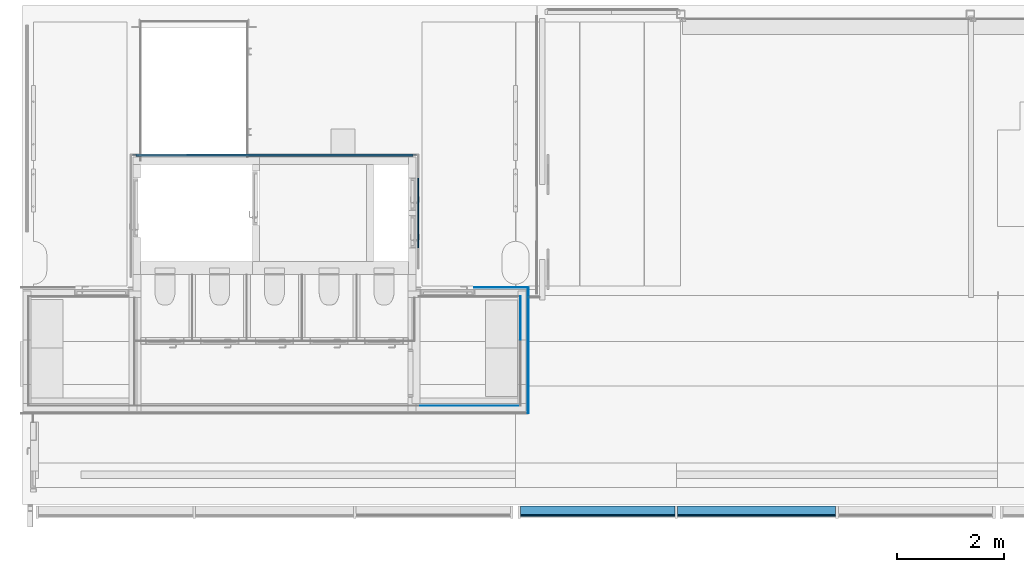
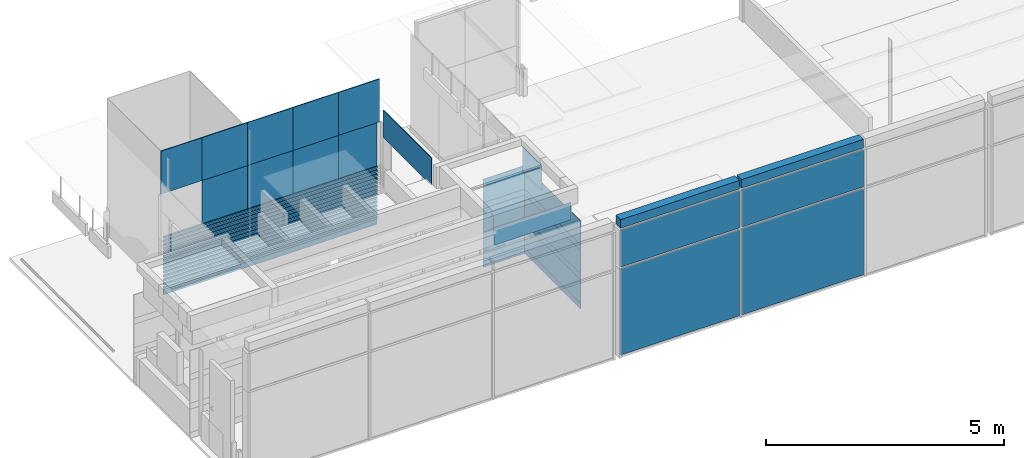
# One storey, part 8 of 26: 45 plates, 7 elements without a shape of their own.
"""IFC2X3 building model written with IfcOpenShell, lengths in millimetres."""

import ifcopenshell
import ifcopenshell.guid

model = None  # the IFC model being written
_history = None  # IfcOwnerHistory: only IFC2X3 demands one
_inside = {}  # id of a spatial element -> (the spatial element, [elements in it])
_under = {}  # id of a project, library or spatial element -> (it, [spatial elements below it])
_declared = {}  # id of a project -> (the project, [libraries it declares])
_typed = {}  # id of a type object -> (the type object, [elements of that type])
_made_of = {}  # id of a material, layer set ... -> (it, [elements and type objects made of it])


def new_model(schema):
    """Start an empty IFC model of exactly this schema.

    Asked for "IFC4X3", IfcOpenShell would pick the latest addendum, in which some entities
    have other attributes; the version numbers below select the first issue.
    IFC2X3 requires an IfcOwnerHistory on every rooted entity: one is made here for all.
    """
    global model, _history
    if schema == "IFC4X3":
        model = ifcopenshell.file(schema_version=(4, 3, 0, 0))
    else:
        model = ifcopenshell.file(schema=schema)
    _inside.clear()
    _under.clear()
    _declared.clear()
    _typed.clear()
    _made_of.clear()
    _history = None
    if model.schema == "IFC2X3":
        org = make("IfcOrganization", Name="unknown")
        user = make(
            "IfcPersonAndOrganization",
            ThePerson=make("IfcPerson", FamilyName="unknown"),
            TheOrganization=org,
        )
        app = make(
            "IfcApplication",
            ApplicationDeveloper=org,
            Version="unknown",
            ApplicationFullName="unknown",
            ApplicationIdentifier="unknown",
        )
        _history = make(
            "IfcOwnerHistory",
            OwningUser=user,
            OwningApplication=app,
            ChangeAction="ADDED",
            CreationDate=0,
        )
    return model


def make(cls, **values):
    """One entity of the class cls with the attributes given. An attribute that is None is left unset."""
    return model.create_entity(
        cls, **{name: value for name, value in values.items() if value is not None}
    )


def entity(cls, *values):
    """Any entity or typed value of the class cls, its attributes in the order of the schema. None: left unset."""
    e = model.create_entity(cls)
    for i, value in enumerate(values):
        if value is not None:
            e[i] = value
    return e


def rooted(cls, **values):
    """An entity with a GlobalId (a new one), such as an element, a storey or a relation."""
    return make(cls, GlobalId=ifcopenshell.guid.new(), OwnerHistory=_history, **values)


def si_unit(unit_type, name, prefix=None):
    """IfcSIUnit, for example si_unit("LENGTHUNIT", "METRE", prefix="MILLI")."""
    return make("IfcSIUnit", UnitType=unit_type, Prefix=prefix, Name=name)


def converted_unit(unit_type, name, factor, base, dimensions=None, offset=None):
    """IfcConversionBasedUnit, such as the inch: factor (a typed value) times the base unit."""
    return make(
        "IfcConversionBasedUnit"
        if offset is None
        else "IfcConversionBasedUnitWithOffset",
        ConversionOffset=offset,
        Dimensions=None
        if dimensions is None
        else entity("IfcDimensionalExponents", *dimensions),
        UnitType=unit_type,
        Name=name,
        ConversionFactor=make(
            "IfcMeasureWithUnit", ValueComponent=factor, UnitComponent=base
        ),
    )


def derived_unit(unit_type, elements):
    """IfcDerivedUnit: a product of units, each with its exponent."""
    return make(
        "IfcDerivedUnit",
        Elements=[
            make("IfcDerivedUnitElement", Unit=unit, Exponent=power)
            for unit, power in elements
        ],
        UnitType=unit_type,
    )


def assignment(units):
    """IfcUnitAssignment: the units of a project."""
    return None if units is None else make("IfcUnitAssignment", Units=units)


def point(xyz):
    """IfcCartesianPoint."""
    return None if xyz is None else make("IfcCartesianPoint", Coordinates=xyz)


def direction(xyz):
    """IfcDirection."""
    return None if xyz is None else make("IfcDirection", DirectionRatios=xyz)


def frame(location, z_axis=None, x_axis=None):
    """IfcAxis2Placement3D, a coordinate frame: its origin and axes. An axis left out is left unset."""
    return make(
        "IfcAxis2Placement3D",
        Location=point(location),
        Axis=direction(z_axis),
        RefDirection=direction(x_axis),
    )


def frame_2d(location, x_axis=None):
    """IfcAxis2Placement2D, a coordinate frame in the plane: its origin and x axis."""
    return make(
        "IfcAxis2Placement2D", Location=point(location), RefDirection=direction(x_axis)
    )


def origin():
    """The frame at (0, 0, 0) with its axes left unset."""
    return frame((0.0, 0.0, 0.0))


def origin_with_axes():
    """The frame at (0, 0, 0) with the z axis (0, 0, 1) and the x axis (1, 0, 0) written out."""
    return frame((0.0, 0.0, 0.0), z_axis=(0.0, 0.0, 1.0), x_axis=(1.0, 0.0, 0.0))


def origin_2d_with_axis():
    """The frame at (0, 0) in the plane with the x axis (1, 0) written out."""
    return frame_2d((0.0, 0.0), x_axis=(1.0, 0.0))


def place(relative_to, where):
    """IfcLocalPlacement: puts the frame where relative to a parent placement (None: the world)."""
    return make(
        "IfcLocalPlacement", PlacementRelTo=relative_to, RelativePlacement=where
    )


def context(
    kind, dimensions, precision=None, world=None, true_north=None, identifier=None
):
    """IfcGeometricRepresentationContext, for example the 3D "Model" context."""
    return make(
        "IfcGeometricRepresentationContext",
        ContextIdentifier=identifier,
        ContextType=kind,
        CoordinateSpaceDimension=dimensions,
        Precision=precision,
        WorldCoordinateSystem=world,
        TrueNorth=true_north,
    )


def subcontext(parent, identifier, kind, view, scale=None):
    """IfcGeometricRepresentationSubContext, for example "Body" below "Model"."""
    return make(
        "IfcGeometricRepresentationSubContext",
        ContextIdentifier=identifier,
        ContextType=kind,
        ParentContext=parent,
        TargetScale=scale,
        TargetView=view,
    )


def project(units=None, contexts=None):
    """IfcProject with its units and contexts."""
    return rooted(
        "IfcProject",
        Name="project",
        RepresentationContexts=contexts,
        UnitsInContext=assignment(units),
    )


def spatial(cls, under=None, at=None, **own):
    """A site, building, storey or space (cls), placed at a placement, below another one or the project."""
    s = rooted(cls, ObjectPlacement=at, **own)
    if under is not None:
        _under.setdefault(under.id(), (under, []))[1].append(s)
    return s


def profile(cls, at=None, kind="AREA", **sizes):
    """A parametric profile (cls). Its sizes go by their IFC names, for example OverallWidth=200.0."""
    return make(cls, ProfileType=kind, Position=at, **sizes)


def rectangle(**sizes):
    """IfcRectangleProfileDef."""
    return profile("IfcRectangleProfileDef", **sizes)


def extrude(swept, where, along, depth):
    """IfcExtrudedAreaSolid: the profile swept, set in the frame where, extruded along a direction by depth."""
    return make(
        "IfcExtrudedAreaSolid",
        SweptArea=swept,
        Position=where,
        ExtrudedDirection=direction(along),
        Depth=depth,
    )


def shape(context_of_items, identifier, shape_type, items):
    """IfcShapeRepresentation: the items that make up one representation, for example the "Body"."""
    return make(
        "IfcShapeRepresentation",
        ContextOfItems=context_of_items,
        RepresentationIdentifier=identifier,
        RepresentationType=shape_type,
        Items=items,
    )


def source(mapping_origin, context_of_items, identifier, shape_type, items):
    """IfcRepresentationMap: a shape defined once, which mapped items show again and again."""
    return make(
        "IfcRepresentationMap",
        MappingOrigin=mapping_origin,
        MappedRepresentation=shape(context_of_items, identifier, shape_type, items),
    )


def transform(
    local_origin,
    x_axis=None,
    y_axis=None,
    z_axis=None,
    scale=None,
    scale2=None,
    scale3=None,
    uniform=True,
):
    """IfcCartesianTransformationOperator3D, or its non-uniform kind. x_axis, y_axis, z_axis: its Axis1, 2, 3."""
    if uniform:
        return make(
            "IfcCartesianTransformationOperator3D",
            Axis1=direction(x_axis),
            Axis2=direction(y_axis),
            LocalOrigin=point(local_origin),
            Scale=scale,
            Axis3=direction(z_axis),
        )
    return make(
        "IfcCartesianTransformationOperator3DnonUniform",
        Axis1=direction(x_axis),
        Axis2=direction(y_axis),
        LocalOrigin=point(local_origin),
        Scale=scale,
        Axis3=direction(z_axis),
        Scale2=scale2,
        Scale3=scale3,
    )


def mapped(mapping_source, mapping_target):
    """IfcMappedItem: shows the shape of a source again, moved by a transform."""
    return make(
        "IfcMappedItem", MappingSource=mapping_source, MappingTarget=mapping_target
    )


def material(Name=None, Category=None):
    """IfcMaterial."""
    return make("IfcMaterial", Name=Name, Category=Category)


def layer(
    of_material, thickness, ventilated=None, Name=None, Category=None, Priority=None
):
    """IfcMaterialLayer: one layer of a wall or slab, of a material (None: an air gap)."""
    return make(
        "IfcMaterialLayer",
        Material=of_material,
        LayerThickness=thickness,
        IsVentilated=ventilated,
        Name=Name,
        Category=Category,
        Priority=Priority,
    )


def layer_set(layers, Name=None):
    """IfcMaterialLayerSet."""
    return make("IfcMaterialLayerSet", MaterialLayers=layers, LayerSetName=Name)


def made_of(thing, what):
    """Note that an element or type object is made of a material, layer set ...; save() writes the relation."""
    if what is not None:
        _made_of.setdefault(what.id(), (what, []))[1].append(thing)
    return thing


def type_object(cls, material=None, **own):
    """A type object (cls), such as IfcWallType, which elements share."""
    return made_of(rooted(cls, **own), material)


def element(
    cls,
    number,
    at=None,
    inside=None,
    cuts=None,
    type_object=None,
    material=None,
    context=None,
    identifier="Body",
    shape_type=None,
    held_by="IfcProductDefinitionShape",
    body=None,
    shapes=None,
    **own,
):
    """One element of the class cls, such as IfcWall. Its Tag is "e" and its number.

    at: its placement. inside: the storey or other place that contains it. cuts: it is an
    opening in that element (IfcRelVoidsElement). A single representation is given by context,
    identifier, shape_type and body (its items); several are given by shapes. held_by: the class
    of the entity that holds the representations. save() writes the other relations.
    """
    e = rooted(cls, Tag="e%d" % number, ObjectPlacement=at, **own)
    if body is not None:
        shapes = [shape(context, identifier, shape_type, body)]
    if shapes is not None:
        e.Representation = make(held_by, Representations=shapes)
    if inside is not None:
        _inside.setdefault(inside.id(), (inside, []))[1].append(e)
    if cuts is not None:
        rooted(
            "IfcRelVoidsElement", RelatingBuildingElement=cuts, RelatedOpeningElement=e
        )
    if type_object is not None:
        _typed.setdefault(type_object.id(), (type_object, []))[1].append(e)
    return made_of(e, material)


def aggregate(whole, parts):
    """IfcRelAggregates: a whole, such as a stair, and the parts it consists of."""
    return rooted("IfcRelAggregates", RelatingObject=whole, RelatedObjects=parts)


def save(model, path):
    """Write the relations noted so far, then the file.

    IfcRelAggregates (storeys below a building ...), IfcRelContainedInSpatialStructure (elements
    in a storey), IfcRelDefinesByType, IfcRelAssociatesMaterial and IfcRelDeclares: one each for
    every whole, place, type object, material and project.
    """
    for whole, parts in _under.values():
        aggregate(whole, parts)
    for where, things in _inside.values():
        rooted(
            "IfcRelContainedInSpatialStructure",
            RelatedElements=things,
            RelatingStructure=where,
        )
    for kind, things in _typed.values():
        rooted("IfcRelDefinesByType", RelatedObjects=things, RelatingType=kind)
    for what, things in _made_of.values():
        rooted("IfcRelAssociatesMaterial", RelatedObjects=things, RelatingMaterial=what)
    for by, libraries in _declared.values():
        rooted("IfcRelDeclares", RelatingContext=by, RelatedDefinitions=libraries)
    model.write(path)


model = new_model("IFC2X3")

# Units and contexts
model_context = context("Model", 3, precision=0.01, world=frame((0.0, 4.29681676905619e-09, 0.0)), true_north=direction((4.01073788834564e-13, 1.0)))
plan_context = context("Plan", 3, precision=0.01, world=frame((0.0, 4.29681676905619e-09, 0.0)), true_north=direction((4.01073788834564e-13, 1.0)))
body_context = subcontext(model_context, "Body", "Model", "MODEL_VIEW")
ifc_project = project(units=[converted_unit("PLANEANGLEUNIT", "DEGREE", entity("IfcPositiveLengthMeasure", 0.0174532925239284), si_unit("PLANEANGLEUNIT", "RADIAN"), dimensions=[0, 0, 0, 0, 0, 0, 0]), si_unit("AREAUNIT", "SQUARE_METRE"), si_unit("LENGTHUNIT", "METRE", prefix="MILLI"), si_unit("MASSUNIT", "GRAM", prefix="KILO"), si_unit("POWERUNIT", "WATT"), si_unit("PRESSUREUNIT", "PASCAL", prefix="KILO"), si_unit("FORCEUNIT", "NEWTON", prefix="KILO"), si_unit("ELECTRICVOLTAGEUNIT", "VOLT"), si_unit("ELECTRICCURRENTUNIT", "AMPERE"), si_unit("THERMODYNAMICTEMPERATUREUNIT", "DEGREE_CELSIUS"), si_unit("TIMEUNIT", "SECOND"), si_unit("VOLUMEUNIT", "CUBIC_METRE"), derived_unit("LINEARVELOCITYUNIT", [(si_unit("LENGTHUNIT", "METRE"), 1), (si_unit("TIMEUNIT", "SECOND"), -1)]), derived_unit("VOLUMETRICFLOWRATEUNIT", [(si_unit("VOLUMEUNIT", "CUBIC_METRE"), 1), (si_unit("TIMEUNIT", "SECOND"), -1)]), derived_unit("THERMALTRANSMITTANCEUNIT", [(si_unit("POWERUNIT", "WATT"), 1), (si_unit("THERMODYNAMICTEMPERATUREUNIT", "KELVIN"), -1), (si_unit("AREAUNIT", "SQUARE_METRE"), -1)]), derived_unit("SOUNDPRESSUREUNIT", [(si_unit("PRESSUREUNIT", "PASCAL"), 1)])], contexts=[model_context, plan_context])

# Site, building, storey
site_placement = place(None, origin_with_axes())
site = spatial("IfcSite", under=ifc_project, at=site_placement, Name="ENGM", CompositionType="ELEMENT")
building_placement = place(site_placement, origin_with_axes())
building = spatial("IfcBuilding", under=site, at=building_placement, Name="TG", CompositionType="ELEMENT")
storey_placement = place(building_placement, frame((0.0, 0.0, 210200.0), z_axis=(0.0, 0.0, 1.0), x_axis=(1.0, 0.0, 0.0)))
storey = spatial("IfcBuildingStorey", under=building, at=storey_placement, Name="Nivå F - 0,7 m", CompositionType="ELEMENT", Elevation=210200.0)

# Curtain wall, plates
curtain_wall_type_1 = type_object("IfcCurtainWallType", Name="Curtain Wall:A232 - UGV - Glass 30 mm", PredefinedType="NOTDEFINED")
curtain_wall_1_placement = place(storey_placement, frame((0.0, 0.0, -210200.0), z_axis=(0.0, 0.0, 1.0), x_axis=(1.0, 0.0, 0.0)))
curtain_wall_1 = element("IfcCurtainWall", 1, at=curtain_wall_1_placement, inside=storey, type_object=curtain_wall_type_1, Name="Curtain Wall:A232 - UGV - Glass 30 mm", ObjectType="Curtain Wall:A232 - UGV - Glass 30 mm")
ifc_material_1 = material(Name="Glass (Avinor)")
plate_type_1 = type_object("IfcPlateType", Name="System Panel:A234 - Glass - 30 mm", PredefinedType="CURTAIN_PANEL", material=ifc_material_1)
shared_shape_1 = source(origin(), body_context, "Body", "SweptSolid", [
    extrude(rectangle(XDim=30.0, YDim=2880.0, at=origin_2d_with_axis()), frame((0.0, 15.0, 0.0), z_axis=(0.0, 0.0, 1.0), x_axis=(0.0, 1.0, 0.0)), (0.0, 0.0, 1.0), 2200.0),
])
plate_1_placement = place(curtain_wall_1_placement, frame((332534.725000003, 458000.000000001, 210230.0), z_axis=(0.0, 0.0, 1.0), x_axis=(-1.0, 0.0, 0.0)))
plate_1 = element("IfcPlate", 2, at=plate_1_placement, type_object=plate_type_1, material=ifc_material_1, Name="System Panel:A234 - Glass - 30 mm", ObjectType="System Panel:A234 - Glass - 30 mm", context=body_context, shape_type="MappedRepresentation", body=[
    mapped(shared_shape_1, transform((0.0, 0.0, 0.0), scale=1.0)),
])
plate_type_2 = type_object("IfcPlateType", Name="System Panel:A234 - Glass - 30 mm", PredefinedType="CURTAIN_PANEL", material=ifc_material_1)
shared_shape_2 = source(origin(), body_context, "Body", "SweptSolid", [
    extrude(rectangle(XDim=30.0, YDim=2949.99999999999, at=origin_2d_with_axis()), frame((0.0, 15.0, 0.0), z_axis=(0.0, 0.0, 1.0), x_axis=(0.0, 1.0, 0.0)), (0.0, 0.0, 1.0), 2200.0),
])
plate_2_placement = place(curtain_wall_1_placement, frame((335499.725000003, 457999.999999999, 210230.0), z_axis=(0.0, 0.0, 1.0), x_axis=(-1.0, 0.0, 0.0)))
plate_2 = element("IfcPlate", 3, at=plate_2_placement, type_object=plate_type_2, material=ifc_material_1, Name="System Panel:A234 - Glass - 30 mm", ObjectType="System Panel:A234 - Glass - 30 mm", context=body_context, shape_type="MappedRepresentation", body=[
    mapped(shared_shape_2, transform((0.0, 0.0, 0.0), scale=1.0)),
])
plate_type_3 = type_object("IfcPlateType", Name="System Panel:A234 - Glass - 30 mm", PredefinedType="CURTAIN_PANEL", material=ifc_material_1)
shared_shape_3 = source(origin(), body_context, "Body", "SweptSolid", [
    extrude(rectangle(XDim=30.0, YDim=2949.99999999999, at=origin_2d_with_axis()), frame((0.0, 15.0, 0.0), z_axis=(0.0, 0.0, 1.0), x_axis=(0.0, 1.0, 0.0)), (0.0, 0.0, 1.0), 950.000000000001),
])
plate_3_placement = place(curtain_wall_1_placement, frame((335499.725000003, 457999.999999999, 212480.0), z_axis=(0.0, 0.0, 1.0), x_axis=(-1.0, 0.0, 0.0)))
plate_3 = element("IfcPlate", 4, at=plate_3_placement, type_object=plate_type_3, material=ifc_material_1, Name="System Panel:A234 - Glass - 30 mm", ObjectType="System Panel:A234 - Glass - 30 mm", context=body_context, shape_type="MappedRepresentation", body=[
    mapped(shared_shape_3, transform((0.0, 0.0, 0.0), scale=1.0)),
])
plate_type_4 = type_object("IfcPlateType", Name="System Panel:A234 - Glass - 30 mm", PredefinedType="CURTAIN_PANEL", material=ifc_material_1)
shared_shape_4 = source(origin(), body_context, "Body", "SweptSolid", [
    extrude(rectangle(XDim=30.0, YDim=2880.0, at=origin_2d_with_axis()), frame((0.0, 15.0, 0.0), z_axis=(0.0, 0.0, 1.0), x_axis=(0.0, 1.0, 0.0)), (0.0, 0.0, 1.0), 950.000000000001),
])
plate_4_placement = place(curtain_wall_1_placement, frame((332534.725000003, 458000.000000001, 212480.0), z_axis=(0.0, 0.0, 1.0), x_axis=(-1.0, 0.0, 0.0)))
plate_4 = element("IfcPlate", 5, at=plate_4_placement, type_object=plate_type_4, material=ifc_material_1, Name="System Panel:A234 - Glass - 30 mm", ObjectType="System Panel:A234 - Glass - 30 mm", context=body_context, shape_type="MappedRepresentation", body=[
    mapped(shared_shape_4, transform((0.0, 0.0, 0.0), scale=1.0)),
])

curtain_wall_type_2 = type_object("IfcCurtainWallType", Name="Curtain Wall:A245 - BIM av T1 - IMK 20mm - Offset 30mm", PredefinedType="NOTDEFINED")
curtain_wall_2_placement = place(storey_placement, frame((0.0, 0.0, -210200.0), z_axis=(0.0, 0.0, 1.0), x_axis=(1.0, 0.0, 0.0)))
curtain_wall_2 = element("IfcCurtainWall", 6, at=curtain_wall_2_placement, inside=storey, type_object=curtain_wall_type_2, Name="Curtain Wall:A245 - BIM av T1 - IMK 20mm - Offset 30mm", ObjectType="Curtain Wall:A245 - BIM av T1 - IMK 20mm - Offset 30mm")
ifc_material_2 = material(Name="Metal - Steel")
plate_type_5 = type_object("IfcPlateType", Name="System Panel:A245 - Metallkasett Inv.20mm - Offset 30mm", PredefinedType="CURTAIN_PANEL", material=ifc_material_2)
shared_shape_5 = source(origin(), body_context, "Body", "SweptSolid", [
    extrude(rectangle(XDim=150.000000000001, YDim=5170.00000002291, at=frame_2d((0.0, -2.15534328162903e-08), x_axis=(1.0, 0.0))), frame((2.15576962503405e-08, 30.0, 75.0), z_axis=(0.0, 1.0, 0.0), x_axis=(0.0, 0.0, 1.0)), (0.0, 0.0, 1.0), 20.0),
])
plate_5_placement = place(curtain_wall_2_placement, frame((326500.000000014, 464677.272716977, 210200.0), z_axis=(0.0, 0.0, 1.0), x_axis=(1.0, 0.0, 0.0)))
plate_5 = element("IfcPlate", 7, at=plate_5_placement, type_object=plate_type_5, material=ifc_material_2, Name="System Panel:A245 - Metallkasett Inv.20mm - Offset 30mm", ObjectType="System Panel:A245 - Metallkasett Inv.20mm - Offset 30mm", context=body_context, shape_type="MappedRepresentation", body=[
    mapped(shared_shape_5, transform((0.0, 0.0, 0.0), scale=1.0)),
])
ifc_material_3 = material(Name="T2_Tre Finerplate")
plate_type_6 = type_object("IfcPlateType", Name="System Panel:A245 - Trepanel eksisterende 2", PredefinedType="CURTAIN_PANEL", material=ifc_material_3)
shared_shape_6 = source(origin(), body_context, "Body", "SweptSolid", [
    extrude(rectangle(XDim=55.0000000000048, YDim=5170.00000000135, at=frame_2d((0.0, -1.43918441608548e-08), x_axis=(1.0, 0.0))), frame((1.4361683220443e-08, 10.0, 27.5000000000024), z_axis=(0.0, 1.0, 0.0), x_axis=(0.0, 0.0, 1.0)), (0.0, 0.0, 1.0), 40.0),
])
plate_6_placement = place(curtain_wall_2_placement, frame((326500.000000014, 464677.272716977, 210350.0), z_axis=(0.0, 0.0, 1.0), x_axis=(1.0, 0.0, 0.0)))
plate_6 = element("IfcPlate", 8, at=plate_6_placement, type_object=plate_type_6, material=ifc_material_3, Name="System Panel:A245 - Trepanel eksisterende 2", ObjectType="System Panel:A245 - Trepanel eksisterende 2", context=body_context, shape_type="MappedRepresentation", body=[
    mapped(shared_shape_6, transform((0.0, 0.0, 0.0), scale=1.0)),
])
plate_7_placement = place(curtain_wall_2_placement, frame((326500.000000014, 464677.272716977, 210450.0), z_axis=(0.0, 0.0, 1.0), x_axis=(1.0, 0.0, 0.0)))
plate_7 = element("IfcPlate", 9, at=plate_7_placement, type_object=plate_type_6, material=ifc_material_3, Name="System Panel:A245 - Trepanel eksisterende 2", ObjectType="System Panel:A245 - Trepanel eksisterende 2", context=body_context, shape_type="MappedRepresentation", body=[
    mapped(shared_shape_6, transform((0.0, 0.0, 0.0), scale=1.0)),
])
plate_8_placement = place(curtain_wall_2_placement, frame((326500.000000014, 464677.272716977, 210550.0), z_axis=(0.0, 0.0, 1.0), x_axis=(1.0, 0.0, 0.0)))
plate_8 = element("IfcPlate", 10, at=plate_8_placement, type_object=plate_type_6, material=ifc_material_3, Name="System Panel:A245 - Trepanel eksisterende 2", ObjectType="System Panel:A245 - Trepanel eksisterende 2", context=body_context, shape_type="MappedRepresentation", body=[
    mapped(shared_shape_6, transform((0.0, 0.0, 0.0), scale=1.0)),
])
plate_9_placement = place(curtain_wall_2_placement, frame((326500.000000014, 464677.272716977, 210650.0), z_axis=(0.0, 0.0, 1.0), x_axis=(1.0, 0.0, 0.0)))
plate_9 = element("IfcPlate", 11, at=plate_9_placement, type_object=plate_type_6, material=ifc_material_3, Name="System Panel:A245 - Trepanel eksisterende 2", ObjectType="System Panel:A245 - Trepanel eksisterende 2", context=body_context, shape_type="MappedRepresentation", body=[
    mapped(shared_shape_6, transform((0.0, 0.0, 0.0), scale=1.0)),
])
plate_10_placement = place(curtain_wall_2_placement, frame((326500.000000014, 464677.272716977, 210750.0), z_axis=(0.0, 0.0, 1.0), x_axis=(1.0, 0.0, 0.0)))
plate_10 = element("IfcPlate", 12, at=plate_10_placement, type_object=plate_type_6, material=ifc_material_3, Name="System Panel:A245 - Trepanel eksisterende 2", ObjectType="System Panel:A245 - Trepanel eksisterende 2", context=body_context, shape_type="MappedRepresentation", body=[
    mapped(shared_shape_6, transform((0.0, 0.0, 0.0), scale=1.0)),
])
plate_11_placement = place(curtain_wall_2_placement, frame((326500.000000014, 464677.272716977, 210850.0), z_axis=(0.0, 0.0, 1.0), x_axis=(1.0, 0.0, 0.0)))
plate_11 = element("IfcPlate", 13, at=plate_11_placement, type_object=plate_type_6, material=ifc_material_3, Name="System Panel:A245 - Trepanel eksisterende 2", ObjectType="System Panel:A245 - Trepanel eksisterende 2", context=body_context, shape_type="MappedRepresentation", body=[
    mapped(shared_shape_6, transform((0.0, 0.0, 0.0), scale=1.0)),
])
plate_12_placement = place(curtain_wall_2_placement, frame((326500.000000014, 464677.272716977, 210950.0), z_axis=(0.0, 0.0, 1.0), x_axis=(1.0, 0.0, 0.0)))
plate_12 = element("IfcPlate", 14, at=plate_12_placement, type_object=plate_type_6, material=ifc_material_3, Name="System Panel:A245 - Trepanel eksisterende 2", ObjectType="System Panel:A245 - Trepanel eksisterende 2", context=body_context, shape_type="MappedRepresentation", body=[
    mapped(shared_shape_6, transform((0.0, 0.0, 0.0), scale=1.0)),
])
plate_13_placement = place(curtain_wall_2_placement, frame((326500.000000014, 464677.272716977, 211050.0), z_axis=(0.0, 0.0, 1.0), x_axis=(1.0, 0.0, 0.0)))
plate_13 = element("IfcPlate", 15, at=plate_13_placement, type_object=plate_type_6, material=ifc_material_3, Name="System Panel:A245 - Trepanel eksisterende 2", ObjectType="System Panel:A245 - Trepanel eksisterende 2", context=body_context, shape_type="MappedRepresentation", body=[
    mapped(shared_shape_6, transform((0.0, 0.0, 0.0), scale=1.0)),
])
plate_14_placement = place(curtain_wall_2_placement, frame((326500.000000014, 464677.272716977, 211150.0), z_axis=(0.0, 0.0, 1.0), x_axis=(1.0, 0.0, 0.0)))
plate_14 = element("IfcPlate", 16, at=plate_14_placement, type_object=plate_type_6, material=ifc_material_3, Name="System Panel:A245 - Trepanel eksisterende 2", ObjectType="System Panel:A245 - Trepanel eksisterende 2", context=body_context, shape_type="MappedRepresentation", body=[
    mapped(shared_shape_6, transform((0.0, 0.0, 0.0), scale=1.0)),
])
plate_15_placement = place(curtain_wall_2_placement, frame((326500.000000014, 464677.272716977, 211250.0), z_axis=(0.0, 0.0, 1.0), x_axis=(1.0, 0.0, 0.0)))
plate_15 = element("IfcPlate", 17, at=plate_15_placement, type_object=plate_type_6, material=ifc_material_3, Name="System Panel:A245 - Trepanel eksisterende 2", ObjectType="System Panel:A245 - Trepanel eksisterende 2", context=body_context, shape_type="MappedRepresentation", body=[
    mapped(shared_shape_6, transform((0.0, 0.0, 0.0), scale=1.0)),
])
plate_16_placement = place(curtain_wall_2_placement, frame((326500.000000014, 464677.272716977, 211350.0), z_axis=(0.0, 0.0, 1.0), x_axis=(1.0, 0.0, 0.0)))
plate_16 = element("IfcPlate", 18, at=plate_16_placement, type_object=plate_type_6, material=ifc_material_3, Name="System Panel:A245 - Trepanel eksisterende 2", ObjectType="System Panel:A245 - Trepanel eksisterende 2", context=body_context, shape_type="MappedRepresentation", body=[
    mapped(shared_shape_6, transform((0.0, 0.0, 0.0), scale=1.0)),
])
plate_17_placement = place(curtain_wall_2_placement, frame((326500.000000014, 464677.272716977, 211450.0), z_axis=(0.0, 0.0, 1.0), x_axis=(1.0, 0.0, 0.0)))
plate_17 = element("IfcPlate", 19, at=plate_17_placement, type_object=plate_type_6, material=ifc_material_3, Name="System Panel:A245 - Trepanel eksisterende 2", ObjectType="System Panel:A245 - Trepanel eksisterende 2", context=body_context, shape_type="MappedRepresentation", body=[
    mapped(shared_shape_6, transform((0.0, 0.0, 0.0), scale=1.0)),
])
plate_18_placement = place(curtain_wall_2_placement, frame((326500.000000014, 464677.272716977, 211550.0), z_axis=(0.0, 0.0, 1.0), x_axis=(1.0, 0.0, 0.0)))
plate_18 = element("IfcPlate", 20, at=plate_18_placement, type_object=plate_type_6, material=ifc_material_3, Name="System Panel:A245 - Trepanel eksisterende 2", ObjectType="System Panel:A245 - Trepanel eksisterende 2", context=body_context, shape_type="MappedRepresentation", body=[
    mapped(shared_shape_6, transform((0.0, 0.0, 0.0), scale=1.0)),
])
plate_type_7 = type_object("IfcPlateType", Name="System Panel:A245 - Trepanel eksisterende 2", PredefinedType="CURTAIN_PANEL", material=ifc_material_3)
shared_shape_7 = source(origin(), body_context, "Body", "SweptSolid", [
    extrude(rectangle(XDim=44.9999999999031, YDim=5170.00000000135, at=frame_2d((0.0, -1.43918441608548e-08), x_axis=(1.0, 0.0))), frame((1.4361683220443e-08, 10.0, 22.4999999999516), z_axis=(0.0, 1.0, 0.0), x_axis=(0.0, 0.0, 1.0)), (0.0, 0.0, 1.0), 40.0),
])
plate_19_placement = place(curtain_wall_2_placement, frame((326500.000000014, 464677.272716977, 211650.0), z_axis=(0.0, 0.0, 1.0), x_axis=(1.0, 0.0, 0.0)))
plate_19 = element("IfcPlate", 21, at=plate_19_placement, type_object=plate_type_7, material=ifc_material_3, Name="System Panel:A245 - Trepanel eksisterende 2", ObjectType="System Panel:A245 - Trepanel eksisterende 2", context=body_context, shape_type="MappedRepresentation", body=[
    mapped(shared_shape_7, transform((0.0, 0.0, 0.0), scale=1.0)),
])
plate_type_8 = type_object("IfcPlateType", Name="System Panel:A245 - Trepanel eksisterende", PredefinedType="CURTAIN_PANEL", material=ifc_material_3)
shared_shape_8 = source(origin(), body_context, "Body", "SweptSolid", [
    extrude(rectangle(XDim=20.0, YDim=935.000000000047, at=frame_2d((1.77635683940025e-15, 0.0), x_axis=(1.0, 0.0))), frame((0.0, 40.0, 0.0), z_axis=(0.0, 0.0, 1.0), x_axis=(0.0, 1.0, 0.0)), (0.0, 0.0, 1.0), 1104.99999999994),
])
plate_20_placement = place(curtain_wall_2_placement, frame((328617.500000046, 464677.272716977, 211695.0), z_axis=(0.0, 0.0, 1.0), x_axis=(1.0, 0.0, 0.0)))
plate_20 = element("IfcPlate", 22, at=plate_20_placement, type_object=plate_type_8, material=ifc_material_3, Name="System Panel:A245 - Trepanel eksisterende", ObjectType="System Panel:A245 - Trepanel eksisterende", context=body_context, shape_type="MappedRepresentation", body=[
    mapped(shared_shape_8, transform((0.0, 0.0, 0.0), scale=1.0)),
])
plate_type_9 = type_object("IfcPlateType", Name="System Panel:A245 - Trepanel eksisterende", PredefinedType="CURTAIN_PANEL", material=ifc_material_3)
shared_shape_9 = source(origin(), body_context, "Body", "SweptSolid", [
    extrude(rectangle(XDim=20.0, YDim=1100.00000000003, at=frame_2d((1.77635683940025e-15, 0.0), x_axis=(1.0, 0.0))), frame((0.0, 40.0, 0.0), z_axis=(0.0, 0.0, 1.0), x_axis=(0.0, 1.0, 0.0)), (0.0, 0.0, 1.0), 1104.99999999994),
])
plate_21_placement = place(curtain_wall_2_placement, frame((325400.000000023, 464677.272716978, 211695.0), z_axis=(0.0, 0.0, 1.0), x_axis=(1.0, 0.0, 0.0)))
plate_21 = element("IfcPlate", 23, at=plate_21_placement, type_object=plate_type_9, material=ifc_material_3, Name="System Panel:A245 - Trepanel eksisterende", ObjectType="System Panel:A245 - Trepanel eksisterende", context=body_context, shape_type="MappedRepresentation", body=[
    mapped(shared_shape_9, transform((0.0, 0.0, 0.0), scale=1.0)),
])
plate_22_placement = place(curtain_wall_2_placement, frame((326500.000000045, 464677.272716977, 211695.0), z_axis=(0.0, 0.0, 1.0), x_axis=(1.0, 0.0, 0.0)))
plate_22 = element("IfcPlate", 24, at=plate_22_placement, type_object=plate_type_9, material=ifc_material_3, Name="System Panel:A245 - Trepanel eksisterende", ObjectType="System Panel:A245 - Trepanel eksisterende", context=body_context, shape_type="MappedRepresentation", body=[
    mapped(shared_shape_9, transform((0.0, 0.0, 0.0), scale=1.0)),
])
plate_23_placement = place(curtain_wall_2_placement, frame((327600.000000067, 464677.272716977, 211695.0), z_axis=(0.0, 0.0, 1.0), x_axis=(1.0, 0.0, 0.0)))
plate_23 = element("IfcPlate", 25, at=plate_23_placement, type_object=plate_type_9, material=ifc_material_3, Name="System Panel:A245 - Trepanel eksisterende", ObjectType="System Panel:A245 - Trepanel eksisterende", context=body_context, shape_type="MappedRepresentation", body=[
    mapped(shared_shape_9, transform((0.0, 0.0, 0.0), scale=1.0)),
])
plate_type_10 = type_object("IfcPlateType", Name="System Panel:A245 - Trepanel eksisterende", PredefinedType="CURTAIN_PANEL", material=ifc_material_3)
shared_shape_10 = source(origin(), body_context, "Body", "SweptSolid", [
    extrude(rectangle(XDim=20.0, YDim=995.000000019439, at=frame_2d((1.77635683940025e-15, 0.0), x_axis=(1.0, 0.0))), frame((0.0, 40.0, 0.0), z_axis=(0.0, 0.0, 1.0), x_axis=(0.0, 1.0, 0.0)), (0.0, 0.0, 1.0), 1099.99999999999),
])
plate_24_placement = place(curtain_wall_2_placement, frame((324352.500000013, 464677.272716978, 212800.0), z_axis=(0.0, 0.0, 1.0), x_axis=(1.0, 0.0, 0.0)))
plate_24 = element("IfcPlate", 26, at=plate_24_placement, type_object=plate_type_10, material=ifc_material_3, Name="System Panel:A245 - Trepanel eksisterende", ObjectType="System Panel:A245 - Trepanel eksisterende", context=body_context, shape_type="MappedRepresentation", body=[
    mapped(shared_shape_10, transform((0.0, 0.0, 0.0), scale=1.0)),
])
plate_25_placement = place(curtain_wall_2_placement, frame((328647.500000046, 464677.272716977, 212800.0), z_axis=(0.0, 0.0, 1.0), x_axis=(1.0, 0.0, 0.0)))
plate_25 = element("IfcPlate", 27, at=plate_25_placement, type_object=plate_type_10, material=ifc_material_3, Name="System Panel:A245 - Trepanel eksisterende", ObjectType="System Panel:A245 - Trepanel eksisterende", context=body_context, shape_type="MappedRepresentation", body=[
    mapped(shared_shape_10, transform((0.0, 0.0, 0.0), scale=1.0)),
])
plate_type_11 = type_object("IfcPlateType", Name="System Panel:A245 - Trepanel eksisterende", PredefinedType="CURTAIN_PANEL", material=ifc_material_3)
shared_shape_11 = source(origin(), body_context, "Body", "SweptSolid", [
    extrude(rectangle(XDim=20.0, YDim=1100.00000000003, at=frame_2d((1.77635683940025e-15, 0.0), x_axis=(1.0, 0.0))), frame((0.0, 40.0, 0.0), z_axis=(0.0, 0.0, 1.0), x_axis=(0.0, 1.0, 0.0)), (0.0, 0.0, 1.0), 1099.99999999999),
])
plate_26_placement = place(curtain_wall_2_placement, frame((325400.000000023, 464677.272716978, 212800.0), z_axis=(0.0, 0.0, 1.0), x_axis=(1.0, 0.0, 0.0)))
plate_26 = element("IfcPlate", 28, at=plate_26_placement, type_object=plate_type_11, material=ifc_material_3, Name="System Panel:A245 - Trepanel eksisterende", ObjectType="System Panel:A245 - Trepanel eksisterende", context=body_context, shape_type="MappedRepresentation", body=[
    mapped(shared_shape_11, transform((0.0, 0.0, 0.0), scale=1.0)),
])
plate_27_placement = place(curtain_wall_2_placement, frame((326500.000000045, 464677.272716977, 212800.0), z_axis=(0.0, 0.0, 1.0), x_axis=(1.0, 0.0, 0.0)))
plate_27 = element("IfcPlate", 29, at=plate_27_placement, type_object=plate_type_11, material=ifc_material_3, Name="System Panel:A245 - Trepanel eksisterende", ObjectType="System Panel:A245 - Trepanel eksisterende", context=body_context, shape_type="MappedRepresentation", body=[
    mapped(shared_shape_11, transform((0.0, 0.0, 0.0), scale=1.0)),
])
plate_28_placement = place(curtain_wall_2_placement, frame((327600.000000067, 464677.272716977, 212800.0), z_axis=(0.0, 0.0, 1.0), x_axis=(1.0, 0.0, 0.0)))
plate_28 = element("IfcPlate", 30, at=plate_28_placement, type_object=plate_type_11, material=ifc_material_3, Name="System Panel:A245 - Trepanel eksisterende", ObjectType="System Panel:A245 - Trepanel eksisterende", context=body_context, shape_type="MappedRepresentation", body=[
    mapped(shared_shape_11, transform((0.0, 0.0, 0.0), scale=1.0)),
])
aggregate(curtain_wall_2, [plate_5, plate_6, plate_7, plate_8, plate_9, plate_10, plate_11, plate_12, plate_13, plate_14, plate_15, plate_16, plate_17, plate_18, plate_19, plate_21, plate_22, plate_23, plate_20, plate_24, plate_26, plate_27, plate_28, plate_25])

# Curtain wall, plate
curtain_wall_3_placement = place(storey_placement, frame((0.0, 0.0, -210200.0), z_axis=(0.0, 0.0, 1.0), x_axis=(1.0, 0.0, 0.0)))
curtain_wall_3 = element("IfcCurtainWall", 31, at=curtain_wall_3_placement, inside=storey, type_object=curtain_wall_type_2, Name="Curtain Wall:A245 - BIM av T1 - IMK 20mm - Offset 30mm", ObjectType="Curtain Wall:A245 - BIM av T1 - IMK 20mm - Offset 30mm")
plate_type_12 = type_object("IfcPlateType", Name="System Panel:A245 - Metallkasett Inv.20mm - Offset 30mm", PredefinedType="CURTAIN_PANEL", material=ifc_material_2)
shared_shape_12 = source(origin(), body_context, "Body", "SweptSolid", [
    extrude(rectangle(XDim=699.999999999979, YDim=2032.27271698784, at=frame_2d((0.0, -14.231820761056), x_axis=(1.0, 0.0))), frame((14.2318207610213, -50.0, 350.0), z_axis=(0.0, 1.0, 0.0), x_axis=(0.0, 0.0, 1.0)), (0.0, 0.0, 1.0), 20.0),
])
plate_29_placement = place(curtain_wall_3_placement, frame((329145.000000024, 463601.136358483, 212450.0), z_axis=(0.0, 0.0, 1.0), x_axis=(0.0, 1.0, 0.0)))
plate_29 = element("IfcPlate", 32, at=plate_29_placement, type_object=plate_type_12, material=ifc_material_2, Name="System Panel:A245 - Metallkasett Inv.20mm - Offset 30mm", ObjectType="System Panel:A245 - Metallkasett Inv.20mm - Offset 30mm", context=body_context, shape_type="MappedRepresentation", body=[
    mapped(shared_shape_12, transform((0.0, 0.0, 0.0), scale=1.0)),
])
aggregate(curtain_wall_3, [plate_29])

# Curtain wall, plates
curtain_wall_type_3 = type_object("IfcCurtainWallType", Name="Curtain Wall:A245 - ITK - Trekledning", PredefinedType="NOTDEFINED")
curtain_wall_4_placement = place(storey_placement, frame((0.0, 0.0, -210200.0), z_axis=(0.0, 0.0, 1.0), x_axis=(1.0, 0.0, 0.0)))
curtain_wall_4 = element("IfcCurtainWall", 33, at=curtain_wall_4_placement, inside=storey, type_object=curtain_wall_type_3, Name="Curtain Wall:A245 - ITK - Trekledning", ObjectType="Curtain Wall:A245 - ITK - Trekledning")
ifc_material_4 = material(Name="Wood - Timber")
plate_type_13 = type_object("IfcPlateType", Name="System Panel:A245 - KL-T03 - Trekledning 14mm", PredefinedType="CURTAIN_PANEL", material=ifc_material_4)
shared_shape_13 = source(origin(), body_context, "Body", "SweptSolid", [
    extrude(rectangle(XDim=14.0, YDim=2338.00000000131, at=origin_2d_with_axis()), frame((0.0, 7.0, 0.0), z_axis=(0.0, 0.0, 1.0), x_axis=(0.0, 1.0, 0.0)), (0.0, 0.0, 1.0), 150.000000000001),
])
plate_30_placement = place(curtain_wall_4_placement, frame((331231.000000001, 461061.600000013, 210200.0), z_axis=(0.0, 0.0, 1.0), x_axis=(0.0, -1.0, 0.0)))
plate_30 = element("IfcPlate", 34, at=plate_30_placement, type_object=plate_type_13, material=ifc_material_4, Name="System Panel:A245 - KL-T03 - Trekledning 14mm", ObjectType="System Panel:A245 - KL-T03 - Trekledning 14mm", context=body_context, shape_type="MappedRepresentation", body=[
    mapped(shared_shape_13, transform((0.0, 0.0, 0.0), scale=1.0)),
])
plate_31_placement = place(curtain_wall_4_placement, frame((331231.000000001, 461061.600000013, 210950.0), z_axis=(0.0, 0.0, 1.0), x_axis=(0.0, -1.0, 0.0)))
plate_31 = element("IfcPlate", 35, at=plate_31_placement, type_object=plate_type_13, material=ifc_material_4, Name="System Panel:A245 - KL-T03 - Trekledning 14mm", ObjectType="System Panel:A245 - KL-T03 - Trekledning 14mm", context=body_context, shape_type="MappedRepresentation", body=[
    mapped(shared_shape_13, transform((0.0, 0.0, 0.0), scale=1.0)),
])
plate_32_placement = place(curtain_wall_4_placement, frame((331231.000000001, 461061.600000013, 211700.0), z_axis=(0.0, 0.0, 1.0), x_axis=(0.0, -1.0, 0.0)))
plate_32 = element("IfcPlate", 36, at=plate_32_placement, type_object=plate_type_13, material=ifc_material_4, Name="System Panel:A245 - KL-T03 - Trekledning 14mm", ObjectType="System Panel:A245 - KL-T03 - Trekledning 14mm", context=body_context, shape_type="MappedRepresentation", body=[
    mapped(shared_shape_13, transform((0.0, 0.0, 0.0), scale=1.0)),
])
plate_type_14 = type_object("IfcPlateType", Name="System Panel:A245 - KL-T03 - Trekledning 14mm", PredefinedType="CURTAIN_PANEL", material=ifc_material_4)
shared_shape_14 = source(origin(), body_context, "Body", "SweptSolid", [
    extrude(rectangle(XDim=14.0, YDim=2338.00000000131, at=origin_2d_with_axis()), frame((0.0, 7.0, 0.0), z_axis=(0.0, 0.0, 1.0), x_axis=(0.0, 1.0, 0.0)), (0.0, 0.0, 1.0), 600.000000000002),
])
plate_33_placement = place(curtain_wall_4_placement, frame((331231.000000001, 461061.600000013, 210350.0), z_axis=(0.0, 0.0, 1.0), x_axis=(0.0, -1.0, 0.0)))
plate_33 = element("IfcPlate", 37, at=plate_33_placement, type_object=plate_type_14, material=ifc_material_4, Name="System Panel:A245 - KL-T03 - Trekledning 14mm", ObjectType="System Panel:A245 - KL-T03 - Trekledning 14mm", context=body_context, shape_type="MappedRepresentation", body=[
    mapped(shared_shape_14, transform((0.0, 0.0, 0.0), scale=1.0)),
])
plate_34_placement = place(curtain_wall_4_placement, frame((331231.000000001, 461061.600000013, 211100.0), z_axis=(0.0, 0.0, 1.0), x_axis=(0.0, -1.0, 0.0)))
plate_34 = element("IfcPlate", 38, at=plate_34_placement, type_object=plate_type_14, material=ifc_material_4, Name="System Panel:A245 - KL-T03 - Trekledning 14mm", ObjectType="System Panel:A245 - KL-T03 - Trekledning 14mm", context=body_context, shape_type="MappedRepresentation", body=[
    mapped(shared_shape_14, transform((0.0, 0.0, 0.0), scale=1.0)),
])
plate_35_placement = place(curtain_wall_4_placement, frame((331231.000000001, 461061.600000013, 211850.0), z_axis=(0.0, 0.0, 1.0), x_axis=(0.0, -1.0, 0.0)))
plate_35 = element("IfcPlate", 39, at=plate_35_placement, type_object=plate_type_14, material=ifc_material_4, Name="System Panel:A245 - KL-T03 - Trekledning 14mm", ObjectType="System Panel:A245 - KL-T03 - Trekledning 14mm", context=body_context, shape_type="MappedRepresentation", body=[
    mapped(shared_shape_14, transform((0.0, 0.0, 0.0), scale=1.0)),
])
aggregate(curtain_wall_4, [plate_30, plate_33, plate_31, plate_34, plate_32, plate_35])

curtain_wall_5_placement = place(storey_placement, frame((0.0, 0.0, -210200.0), z_axis=(0.0, 0.0, 1.0), x_axis=(1.0, 0.0, 0.0)))
curtain_wall_5 = element("IfcCurtainWall", 40, at=curtain_wall_5_placement, inside=storey, type_object=curtain_wall_type_3, Name="Curtain Wall:A245 - ITK - Trekledning", ObjectType="Curtain Wall:A245 - ITK - Trekledning")
plate_type_15 = type_object("IfcPlateType", Name="System Panel:A245 - KL-T03 - Trekledning 14mm", PredefinedType="CURTAIN_PANEL", material=ifc_material_4)
shared_shape_15 = source(origin(), body_context, "Body", "SweptSolid", [
    extrude(rectangle(XDim=14.0, YDim=1002.00000001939, at=origin_2d_with_axis()), frame((0.0, 7.0, 0.0), z_axis=(0.0, 0.0, 1.0), x_axis=(0.0, 1.0, 0.0)), (0.0, 0.0, 1.0), 150.000000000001),
])
plate_36_placement = place(curtain_wall_5_placement, frame((330729.999999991, 462230.600000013, 210200.0), z_axis=(0.0, 0.0, 1.0), x_axis=(1.0, 0.0, 0.0)))
plate_36 = element("IfcPlate", 41, at=plate_36_placement, type_object=plate_type_15, material=ifc_material_4, Name="System Panel:A245 - KL-T03 - Trekledning 14mm", ObjectType="System Panel:A245 - KL-T03 - Trekledning 14mm", context=body_context, shape_type="MappedRepresentation", body=[
    mapped(shared_shape_15, transform((0.0, 0.0, 0.0), scale=1.0)),
])
plate_37_placement = place(curtain_wall_5_placement, frame((330729.999999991, 462230.600000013, 210950.0), z_axis=(0.0, 0.0, 1.0), x_axis=(1.0, 0.0, 0.0)))
plate_37 = element("IfcPlate", 42, at=plate_37_placement, type_object=plate_type_15, material=ifc_material_4, Name="System Panel:A245 - KL-T03 - Trekledning 14mm", ObjectType="System Panel:A245 - KL-T03 - Trekledning 14mm", context=body_context, shape_type="MappedRepresentation", body=[
    mapped(shared_shape_15, transform((0.0, 0.0, 0.0), scale=1.0)),
])
plate_38_placement = place(curtain_wall_5_placement, frame((330729.999999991, 462230.600000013, 211700.0), z_axis=(0.0, 0.0, 1.0), x_axis=(1.0, 0.0, 0.0)))
plate_38 = element("IfcPlate", 43, at=plate_38_placement, type_object=plate_type_15, material=ifc_material_4, Name="System Panel:A245 - KL-T03 - Trekledning 14mm", ObjectType="System Panel:A245 - KL-T03 - Trekledning 14mm", context=body_context, shape_type="MappedRepresentation", body=[
    mapped(shared_shape_15, transform((0.0, 0.0, 0.0), scale=1.0)),
])
plate_type_16 = type_object("IfcPlateType", Name="System Panel:A245 - KL-T03 - Trekledning 14mm", PredefinedType="CURTAIN_PANEL", material=ifc_material_4)
shared_shape_16 = source(origin(), body_context, "Body", "SweptSolid", [
    extrude(rectangle(XDim=14.0, YDim=1002.00000001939, at=origin_2d_with_axis()), frame((0.0, 7.0, 0.0), z_axis=(0.0, 0.0, 1.0), x_axis=(0.0, 1.0, 0.0)), (0.0, 0.0, 1.0), 600.000000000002),
])
plate_39_placement = place(curtain_wall_5_placement, frame((330729.999999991, 462230.600000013, 210350.0), z_axis=(0.0, 0.0, 1.0), x_axis=(1.0, 0.0, 0.0)))
plate_39 = element("IfcPlate", 44, at=plate_39_placement, type_object=plate_type_16, material=ifc_material_4, Name="System Panel:A245 - KL-T03 - Trekledning 14mm", ObjectType="System Panel:A245 - KL-T03 - Trekledning 14mm", context=body_context, shape_type="MappedRepresentation", body=[
    mapped(shared_shape_16, transform((0.0, 0.0, 0.0), scale=1.0)),
])
plate_40_placement = place(curtain_wall_5_placement, frame((330729.999999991, 462230.600000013, 211100.0), z_axis=(0.0, 0.0, 1.0), x_axis=(1.0, 0.0, 0.0)))
plate_40 = element("IfcPlate", 45, at=plate_40_placement, type_object=plate_type_16, material=ifc_material_4, Name="System Panel:A245 - KL-T03 - Trekledning 14mm", ObjectType="System Panel:A245 - KL-T03 - Trekledning 14mm", context=body_context, shape_type="MappedRepresentation", body=[
    mapped(shared_shape_16, transform((0.0, 0.0, 0.0), scale=1.0)),
])
plate_41_placement = place(curtain_wall_5_placement, frame((330729.999999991, 462230.600000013, 211850.0), z_axis=(0.0, 0.0, 1.0), x_axis=(1.0, 0.0, 0.0)))
plate_41 = element("IfcPlate", 46, at=plate_41_placement, type_object=plate_type_16, material=ifc_material_4, Name="System Panel:A245 - KL-T03 - Trekledning 14mm", ObjectType="System Panel:A245 - KL-T03 - Trekledning 14mm", context=body_context, shape_type="MappedRepresentation", body=[
    mapped(shared_shape_16, transform((0.0, 0.0, 0.0), scale=1.0)),
])
aggregate(curtain_wall_5, [plate_36, plate_39, plate_37, plate_40, plate_38, plate_41])

# Curtain wall, plate
curtain_wall_type_4 = type_object("IfcCurtainWallType", Name="Curtain Wall:A242 - IGV - Glass - 6 mm", PredefinedType="NOTDEFINED")
curtain_wall_6_placement = place(storey_placement, frame((0.0, 0.0, -210200.0), z_axis=(0.0, 0.0, 1.0), x_axis=(1.0, 0.0, 0.0)))
curtain_wall_6 = element("IfcCurtainWall", 47, at=curtain_wall_6_placement, inside=storey, type_object=curtain_wall_type_4, Name="Curtain Wall:A242 - IGV - Glass - 6 mm", ObjectType="Curtain Wall:A242 - IGV - Glass - 6 mm")
plate_type_17 = type_object("IfcPlateType", Name="System Panel:A245 - Glass - 6 mm", PredefinedType="CURTAIN_PANEL", material=ifc_material_1)
shared_shape_17 = source(origin(), body_context, "Body", "SweptSolid", [
    extrude(rectangle(XDim=6.0, YDim=1869.50000002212, at=origin_2d_with_axis()), frame((0.0, -3.0, 0.0), z_axis=(0.0, 0.0, 1.0), x_axis=(0.0, 1.0, 0.0)), (0.0, 0.0, 1.0), 450.000000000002),
])
plate_42_placement = place(curtain_wall_6_placement, frame((330153.249999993, 460035.599999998, 212450.0), z_axis=(0.0, 0.0, 1.0), x_axis=(1.0, 0.0, 0.0)))
plate_42 = element("IfcPlate", 48, at=plate_42_placement, type_object=plate_type_17, material=ifc_material_1, Name="System Panel:A245 - Glass - 6 mm", ObjectType="System Panel:A245 - Glass - 6 mm", context=body_context, shape_type="MappedRepresentation", body=[
    mapped(shared_shape_17, transform((0.0, 0.0, 0.0), scale=1.0)),
])
aggregate(curtain_wall_6, [plate_42])

curtain_wall_7_placement = place(storey_placement, frame((0.0, 0.0, -210200.0), z_axis=(0.0, 0.0, 1.0), x_axis=(1.0, 0.0, 0.0)))
curtain_wall_7 = element("IfcCurtainWall", 49, at=curtain_wall_7_placement, inside=storey, type_object=curtain_wall_type_4, Name="Curtain Wall:A242 - IGV - Glass - 6 mm", ObjectType="Curtain Wall:A242 - IGV - Glass - 6 mm")
plate_type_18 = type_object("IfcPlateType", Name="System Panel:A245 - Glass - 6 mm", PredefinedType="CURTAIN_PANEL", material=ifc_material_1)
shared_shape_18 = source(origin(), body_context, "Body", "SweptSolid", [
    extrude(rectangle(XDim=6.0, YDim=811.481498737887, at=origin_2d_with_axis()), frame((0.0, 3.0, 0.0), z_axis=(0.0, 0.0, 1.0), x_axis=(0.0, 1.0, 0.0)), (0.0, 0.0, 1.0), 649.999999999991),
])
plate_43_placement = place(curtain_wall_7_placement, frame((331087.999999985, 461666.163030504, 212450.0), z_axis=(0.0, 0.0, 1.0), x_axis=(0.0, -1.0, 0.0)))
plate_43 = element("IfcPlate", 50, at=plate_43_placement, type_object=plate_type_18, material=ifc_material_1, Name="System Panel:A245 - Glass - 6 mm", ObjectType="System Panel:A245 - Glass - 6 mm", context=body_context, shape_type="MappedRepresentation", body=[
    mapped(shared_shape_18, transform((0.0, 0.0, 0.0), scale=1.0)),
])
aggregate(curtain_wall_7, [plate_43])

# Plate
ifc_material_5 = material(Name="_NSW Aluminium")
ifc_layer_1 = layer(ifc_material_5, 10.0)
ifc_material_6 = material(Name="_NSW Luftspalte")
ifc_layer_2 = layer(ifc_material_6, 25.0)
ifc_layer_3 = layer(ifc_material_6, 45.0)
ifc_material_7 = material(Name="_NSW Isolasjon")
ifc_layer_4 = layer(ifc_material_7, 115.0)
ifc_layer_5 = layer(ifc_material_5, 5.0)
ifc_layer_set = layer_set([ifc_layer_1, ifc_layer_2, ifc_layer_3, ifc_layer_4, ifc_layer_5], Name="Basic Wall:A234 - Blindfelt (eksisterende pir)")
plate_type_19 = type_object("IfcPlateType", Name="Basic Wall:A234 - Blindfelt (eksisterende pir)", PredefinedType="CURTAIN_PANEL", material=ifc_layer_set)
plate_44_placement = place(curtain_wall_1_placement, frame((336974.725000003, 458064.999999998, 213480.0), z_axis=(0.0, 0.0, 1.0), x_axis=(-1.0, 0.0, 0.0)))
plate_44 = element("IfcPlate", 51, at=plate_44_placement, type_object=plate_type_19, Name="Basic Wall:A234 - Blindfelt (eksisterende pir)", ObjectType="Basic Wall:A234 - Blindfelt (eksisterende pir)", context=body_context, shape_type="SweptSolid", body=[
    extrude(rectangle(XDim=219.999999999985, YDim=200.000000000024, at=frame_2d((-1.73301373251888e-11, 3.46531692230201e-11), x_axis=(1.0, 0.0))), frame((2950.0, 0.0, 110.0), z_axis=(-1.0, 0.0, 0.0), x_axis=(0.0, 0.0, 1.0)), (0.0, 0.0, 1.0), 2949.99999999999),
])

plate_45_placement = place(curtain_wall_1_placement, frame((333974.725000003, 458065.0, 213480.0), z_axis=(0.0, 0.0, 1.0), x_axis=(-1.0, 0.0, 0.0)))
plate_45 = element("IfcPlate", 52, at=plate_45_placement, type_object=plate_type_19, Name="Basic Wall:A234 - Blindfelt (eksisterende pir)", ObjectType="Basic Wall:A234 - Blindfelt (eksisterende pir)", context=body_context, shape_type="SweptSolid", body=[
    extrude(rectangle(XDim=219.999999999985, YDim=200.000000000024, at=frame_2d((-1.73301373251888e-11, 3.46531692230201e-11), x_axis=(1.0, 0.0))), frame((2880.0, 0.0, 110.0), z_axis=(-1.0, 0.0, 0.0), x_axis=(0.0, 0.0, 1.0)), (0.0, 0.0, 1.0), 2880.00000000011),
])

aggregate(curtain_wall_1, [plate_2, plate_1, plate_3, plate_4, plate_44, plate_45])

save(model, "model.ifc")
